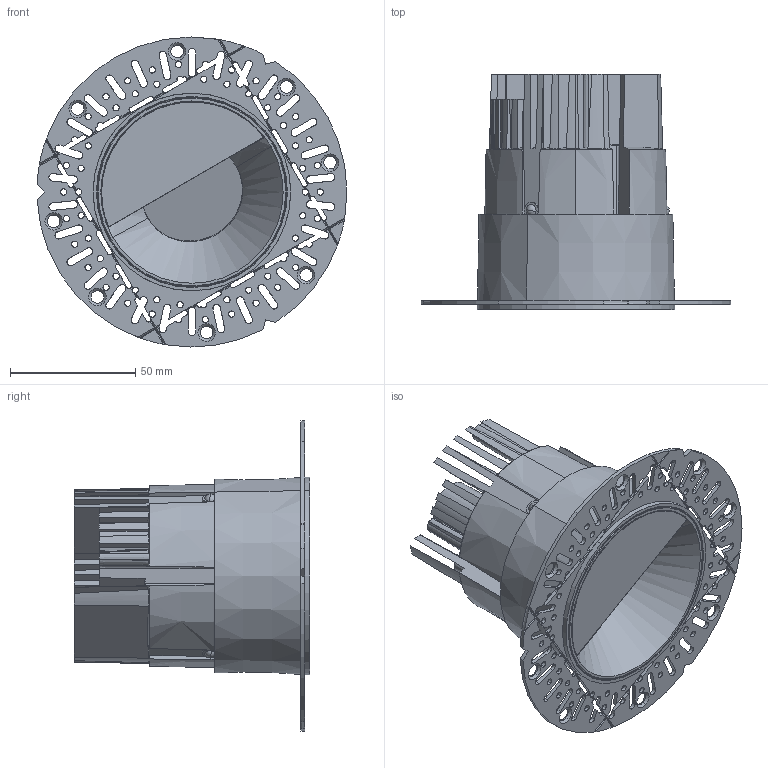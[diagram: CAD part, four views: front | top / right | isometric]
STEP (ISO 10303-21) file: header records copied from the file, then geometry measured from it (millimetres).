
FILE_DESCRIPTION (( 'STEP AP214' ), '1' );
FILE_NAME ('WG-H-PTD3-FA-RPT-RWW.STEP', '2023-02-03T19:50:55', ( '' ), ( '' ), 'SwSTEP 2.0', 'SolidWorks 2021', '' );
FILE_SCHEMA (( 'AUTOMOTIVE_DESIGN' ));
Length unit declared in the file: millimetre
Products named in the file (11): 720-10044-300; 370-10013-200; 720-10057-304; 760-10055-400; WG-H-PTD3-FA-RPT-RWW; 310-10030-101_92005A116; 720-10042-300; 340-10027-400_stretch out; WG-CV-PTD3-RWW-WW-_-__; 720-10056-304; 760-10049-400
Assembly tree (13 placements, depth 3):
  WG-H-PTD3-FA-RPT-RWW
    720-10042-300
    WG-CV-PTD3-RWW-WW-_-__
      720-10056-304
      720-10057-304
      310-10030-101_92005A116  x2
      340-10027-400_stretch out
      760-10055-400
      760-10049-400
    720-10044-300
    370-10013-200  x3
Bounding box: 123.93 x 94 x 124 mm (x, y, z)
Volume: 160511.3 mm3; surface area: 136588.2 mm2
Topology: 12 solids, 12 shells, 1598 faces, 4556 edges, 2915 vertices
Faces by surface type: plane 669, cone 435, cylinder 263, bspline 98, torus 82, sphere 51
Entity records: 55397 total; most frequent: CARTESIAN_POINT 17728, ORIENTED_EDGE 8378, DIRECTION 7454, EDGE_CURVE 4189, AXIS2_PLACEMENT_3D 2882, VERTEX_POINT 2695, VECTOR 1690, LINE 1690
